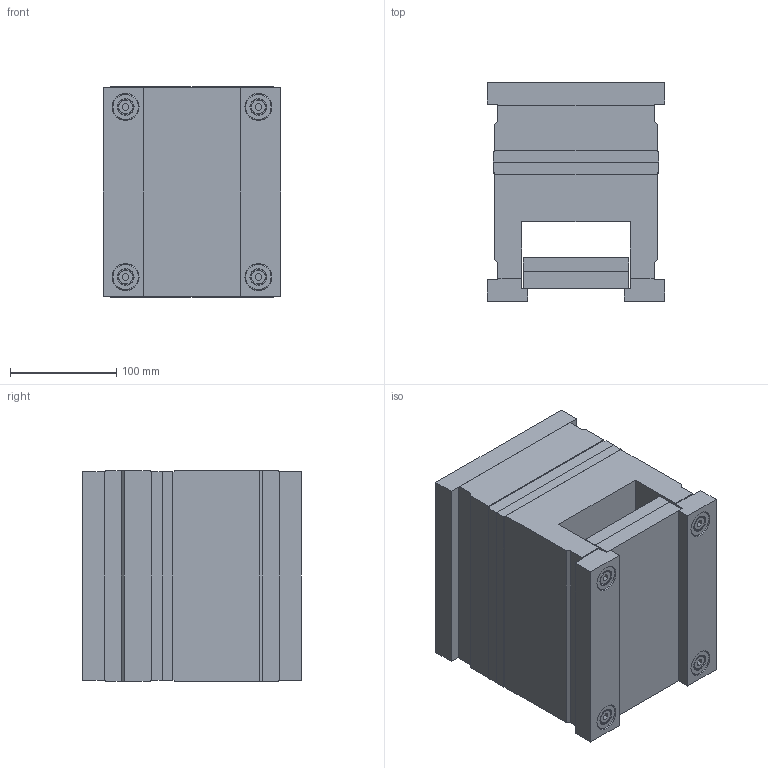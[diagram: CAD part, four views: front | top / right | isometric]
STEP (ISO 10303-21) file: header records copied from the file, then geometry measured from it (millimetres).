
FILE_DESCRIPTION (( 'STEP AP214' ), '1' );
FILE_NAME ('1562.STEP', '2002-07-10T07:49:47', ( 'Simcha Kilim' ), ( 'K. Plastics Engineering' ), 'SwSTEP 2.0', 'SolidWorks 2002025', '' );
FILE_SCHEMA (( 'AUTOMOTIVE_DESIGN' ));
Length unit declared in the file: millimetre
Products named in the file (12): 1562; ALMO (guide bush)_Ø15; ALMO (ejector plate)_1562; ALMO (guide bush)_Ø14; ALMO (ejector return plate)_1562; ALMO (ejector half)_1562; ALMO (hot half)_1562; ALMO (guide pin)_Ø15; ALMO (guide pin)_Ø14; ALMO (screw)_M8x90; ALMO (key plate)_Ø14; ALMO (screw)_M8x50
Assembly tree (28 placements, depth 2):
  1562
    ALMO (guide bush)_Ø14  x3
    ALMO (screw)_M8x90  x4
    ALMO (guide pin)_Ø14  x3
    ALMO (key plate)_Ø14  x8
    ALMO (ejector plate)_1562
    ALMO (ejector half)_1562
    ALMO (guide pin)_Ø15
    ALMO (ejector return plate)_1562
    ALMO (hot half)_1562
    ALMO (screw)_M8x50  x4
    ALMO (guide bush)_Ø15
Bounding box: 167 x 206 x 198 mm (x, y, z)
Volume: 5303425.5 mm3; surface area: 511987.9 mm2
Topology: 28 solids, 28 shells, 706 faces, 1496 edges, 924 vertices
Faces by surface type: cylinder 260, plane 254, cone 192
Entity records: 10477 total; most frequent: DIRECTION 1914, CARTESIAN_POINT 1683, ORIENTED_EDGE 1584, EDGE_CURVE 792, AXIS2_PLACEMENT_3D 729, VERTEX_POINT 498, LINE 456, VECTOR 456
